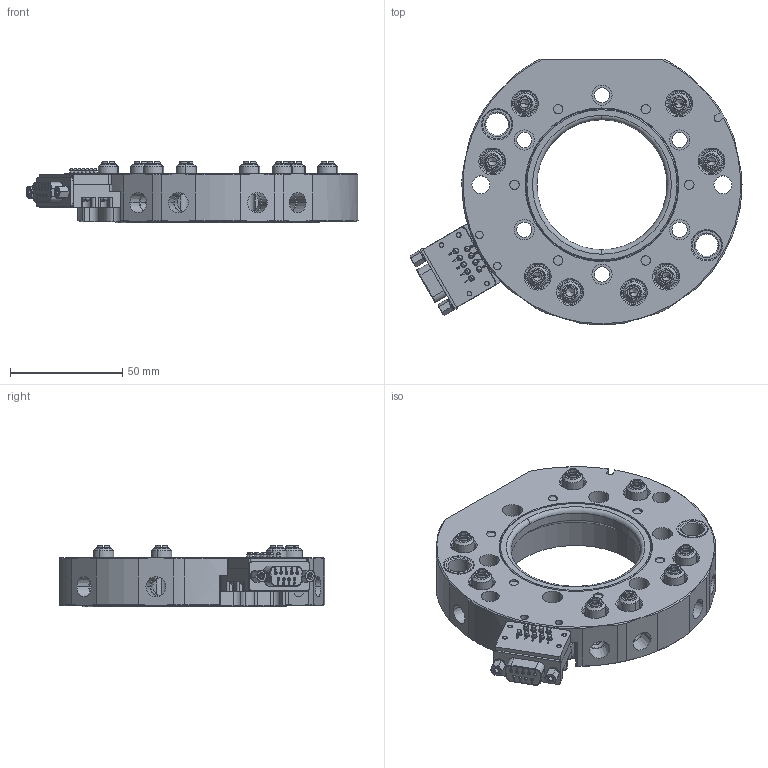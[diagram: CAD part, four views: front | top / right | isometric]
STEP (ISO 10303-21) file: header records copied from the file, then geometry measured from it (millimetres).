
FILE_DESCRIPTION (( 'STEP AP203' ), '1' );
FILE_NAME ('NSK-60DJ-¿Í»§.STEP', '2024-01-13T01:47:11', ( '' ), ( '' ), 'SwSTEP 2.0', 'SolidWorks 2018', '' );
FILE_SCHEMA (( 'CONFIG_CONTROL_DESIGN' ));
Length unit declared in the file: millimetre
Products named in the file (1): NSK-60DJ-諦誧
Bounding box: 148.15 x 118.41 x 27.5 mm (x, y, z)
Volume: 181495.5 mm3; surface area: 85096 mm2
Topology: 71 solids, 71 shells, 2297 faces, 5595 edges, 3501 vertices
Faces by surface type: plane 824, cylinder 755, bspline 318, cone 316, torus 66, sphere 18
Entity records: 76110 total; most frequent: CARTESIAN_POINT 23176, ORIENTED_EDGE 10970, DIRECTION 10725, EDGE_CURVE 5485, AXIS2_PLACEMENT_3D 4112, VERTEX_POINT 3501, EDGE_LOOP 2688, VECTOR 2501
